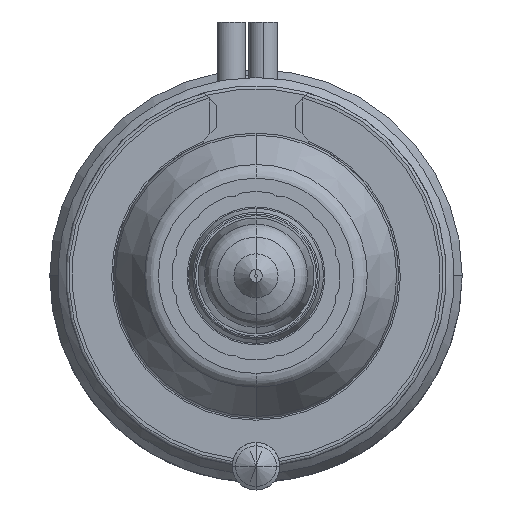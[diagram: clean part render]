
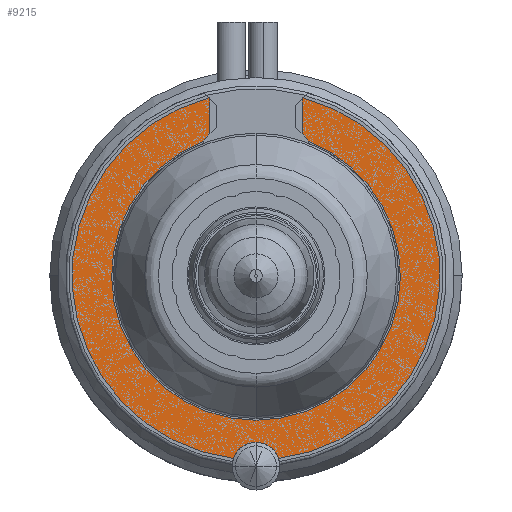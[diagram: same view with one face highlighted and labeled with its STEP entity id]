
A CAD part, front view. The second image highlights one B-rep face of the part: STEP entity #9215.
In plain terms, the highlighted planar face has unit normal (0, -1, 0).
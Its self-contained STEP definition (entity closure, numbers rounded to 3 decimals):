
#597=DIRECTION('',(0.707,0.,-0.707));
#598=VECTOR('',#597,0.092);
#599=CARTESIAN_POINT('',(-2.965,-22.,11.215));
#600=LINE('',#599,#598);
#1556=CARTESIAN_POINT('',(0.,-22.,6.2));
#1557=DIRECTION('',(0.,1.,0.));
#1558=DIRECTION('',(0.725,0.,0.689));
#1559=AXIS2_PLACEMENT_3D('',#1556,#1557,#1558);
#1571=CARTESIAN_POINT('',(0.,-22.,-12.));
#1572=DIRECTION('',(0.,1.,0.));
#1573=DIRECTION('',(-0.946,0.,0.325));
#1574=AXIS2_PLACEMENT_3D('',#1571,#1572,#1573);
#1590=CARTESIAN_POINT('',(0.,-22.,0.));
#1591=DIRECTION('',(0.,1.,0.));
#1592=DIRECTION('',(-0.122,0.,-0.992));
#1593=AXIS2_PLACEMENT_3D('',#1590,#1591,#1592);
#1602=CARTESIAN_POINT('',(0.,-22.,0.));
#1603=DIRECTION('',(0.,1.,0.));
#1604=DIRECTION('',(0.256,0.,0.967));
#1605=AXIS2_PLACEMENT_3D('',#1602,#1603,#1604);
#1618=DIRECTION('',(-0.707,0.,-0.707));
#1619=VECTOR('',#1618,0.092);
#1620=CARTESIAN_POINT('',(2.965,-22.,11.215));
#1621=LINE('',#1620,#1619);
#1626=DIRECTION('',(0.,0.,-1.));
#1627=VECTOR('',#1626,2.195);
#1628=CARTESIAN_POINT('',(2.9,-22.,11.15));
#1629=LINE('',#1628,#1627);
#1657=DIRECTION('',(0.,0.,1.));
#1658=VECTOR('',#1657,2.195);
#1659=CARTESIAN_POINT('',(-2.9,-22.,8.955));
#1660=LINE('',#1659,#1658);
#1692=CARTESIAN_POINT('',(0.,-22.,6.2));
#1693=DIRECTION('',(0.,1.,0.));
#1694=DIRECTION('',(-0.82,0.,0.572));
#1695=AXIS2_PLACEMENT_3D('',#1692,#1693,#1694);
#1707=CARTESIAN_POINT('',(0.,-22.,0.));
#1708=DIRECTION('',(0.,-1.,0.));
#1709=DIRECTION('',(-0.361,0.,0.933));
#1710=AXIS2_PLACEMENT_3D('',#1707,#1708,#1709);
#8091=CARTESIAN_POINT('',(2.965,-22.,11.215));
#8092=CARTESIAN_POINT('',(2.9,-22.,11.15));
#8093=VERTEX_POINT('',#8091);
#8094=VERTEX_POINT('',#8092);
#8099=CARTESIAN_POINT('',(-2.965,-22.,11.215));
#8100=CARTESIAN_POINT('',(-2.9,-22.,11.15));
#8101=VERTEX_POINT('',#8099);
#8102=VERTEX_POINT('',#8100);
#8137=CARTESIAN_POINT('',(2.9,-22.,8.955));
#8138=CARTESIAN_POINT('',(3.281,-22.,8.488));
#8139=VERTEX_POINT('',#8137);
#8140=VERTEX_POINT('',#8138);
#8141=CARTESIAN_POINT('',(-3.281,-22.,8.488));
#8142=CARTESIAN_POINT('',(-2.9,-22.,8.955));
#8143=VERTEX_POINT('',#8141);
#8144=VERTEX_POINT('',#8142);
#8286=CARTESIAN_POINT('',(-1.419,-22.,-11.513));
#8287=CARTESIAN_POINT('',(1.419,-22.,-11.513));
#8288=VERTEX_POINT('',#8286);
#8289=VERTEX_POINT('',#8287);
#9191=CARTESIAN_POINT('',(0.,-22.,0.));
#9192=DIRECTION('',(0.,-1.,0.));
#9193=DIRECTION('',(-1.,0.,0.));
#9194=AXIS2_PLACEMENT_3D('',#9191,#9192,#9193);
#9195=PLANE('',#9194);
#9196=ORIENTED_EDGE('',*,*,#8678,.F.);
#9198=ORIENTED_EDGE('',*,*,#9197,.T.);
#9199=ORIENTED_EDGE('',*,*,#8798,.T.);
#9201=ORIENTED_EDGE('',*,*,#9200,.F.);
#9203=ORIENTED_EDGE('',*,*,#9202,.F.);
#9205=ORIENTED_EDGE('',*,*,#9204,.T.);
#9206=ORIENTED_EDGE('',*,*,#9170,.F.);
#9208=ORIENTED_EDGE('',*,*,#9207,.F.);
#9210=ORIENTED_EDGE('',*,*,#9209,.F.);
#9212=ORIENTED_EDGE('',*,*,#9211,.T.);
#9213=EDGE_LOOP('',(#9196,#9198,#9199,#9201,#9203,#9205,#9206,#9208,#9210,
#9212));
#9214=FACE_OUTER_BOUND('',#9213,.F.);
#9215=ADVANCED_FACE('',(#9214),#9195,.T.);
#1560=CIRCLE('',#1559,4.);
#1575=CIRCLE('',#1574,1.5);
#1594=CIRCLE('',#1593,11.6);
#1606=CIRCLE('',#1605,11.6);
#1696=CIRCLE('',#1695,4.);
#1711=CIRCLE('',#1710,9.1);
#8678=EDGE_CURVE('',#8288,#8289,#1575,.T.);
#8798=EDGE_CURVE('',#8101,#8102,#600,.T.);
#9170=EDGE_CURVE('',#8139,#8140,#1560,.T.);
#9197=EDGE_CURVE('',#8288,#8101,#1594,.T.);
#9200=EDGE_CURVE('',#8144,#8102,#1660,.T.);
#9202=EDGE_CURVE('',#8143,#8144,#1696,.T.);
#9204=EDGE_CURVE('',#8143,#8140,#1711,.T.);
#9207=EDGE_CURVE('',#8094,#8139,#1629,.T.);
#9209=EDGE_CURVE('',#8093,#8094,#1621,.T.);
#9211=EDGE_CURVE('',#8093,#8289,#1606,.T.);
